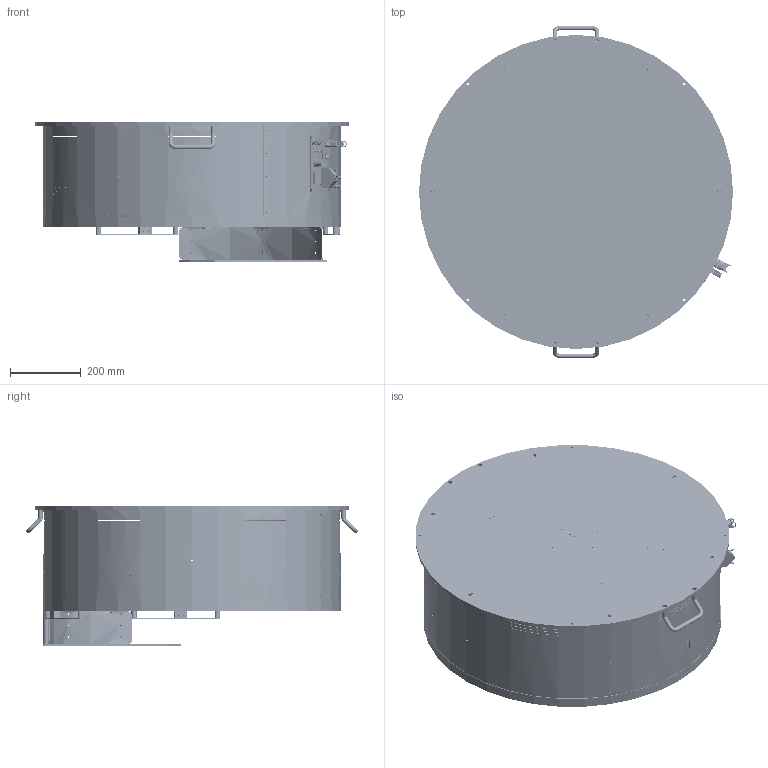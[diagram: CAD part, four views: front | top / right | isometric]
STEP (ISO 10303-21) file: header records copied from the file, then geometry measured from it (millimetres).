
FILE_DESCRIPTION (( 'STEP AP214' ), '1' );
FILE_NAME ('GM001085_FB800C V2.2 Extended backlight area.STEP', '2025-09-23T07:30:38', ( '' ), ( '' ), 'SwSTEP 2.0', 'SolidWorks 2023', '' );
FILE_SCHEMA (( 'AUTOMOTIVE_DESIGN' ));
Length unit declared in the file: millimetre
Products named in the file (82): PD001119; CM000008_001; PD001124; Copia di Guaina^CE000463; PD005085_003; CE000420; Copia di Led RDY_FLT^CE000326; CE000030; PD005625; CM000015_002; Copia di 39-01-2025^CE000327; Copia di CE000327^CE000327; CE000005; Copia di Guaina^CE000461; CM000008_004; PD001101; Copia di 39-01-2045^CE000326; CM000015_001; PD005096; Copia di 39-01-2025^CE000463; PD003362; CM000099; Copia di Cavo line^CE000322; Copia di connector_a-ds_25_pp-f^CE000463; PD005626; PD005085; PD006081; CM000686_001; PD006488; Copia di CE000325^CE000461; CM000008_002; CM000920; Copia di 3^CE000322; PD005112; PD006084; CM000015; PD003221; CE000039; CM000686; CE000276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
Assembly tree (105 placements, depth 3):
  CM000920
  GM001085_FB800C V2.2 Extended backlight area
    CE000327
      Copia di CE000327^CE000327
      Copia di 39-01-2025^CE000327
    CE000326
      Copia di Led RDY_FLT^CE000326
      Copia di 39-01-2045^CE000326
    CE000039
    CE000321
    CE000322
      Copia di 1^CE000322
      Copia di 2 - Copia (2)^CE000322
      Copia di 2 - Copia^CE000322  x4
      Copia di 3^CE000322
      Copia di Cavo line^CE000322
    CE000461
      Copia di CE000325^CE000461
      Copia di 43025-0600^CE000461
      Copia di Guaina^CE000461
    CE000463
      Copia di connector_a-ds_25_pp-f^CE000463
      Copia di Connettore te 2 poli - Copia^CE000463
      Copia di 39-01-2025^CE000463
      Copia di 43025-1600^CE000463
      Copia di Guaina^CE000463
    CM000015  x2
      CM000015_001
      CM000015_002
    CM000424
    CM000099
    PD001086
    CM000001  x2
    PD005096
    PD006488  x5
    PD002027
    PD005112
    PD001356
    PD006083
    PD006082
    PD003221  x2
    PD005625  x4
    PD005626  x2
    PD005085
      PD005085_001
      PD005085_003
      PD005085_002
    CM000374  x2
    PD005103
    PD006081
    PD006074  x3
    PD006084
    PD001087
    PD001101
    PD000043  x4
    PD001123  x2
    PD001119  x2
    PD001124
    PD001122
    PD004009
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Bounding box: 890 x 940.65 x 394.5 mm (x, y, z)
Volume: 14810160.2 mm3; surface area: 5419081.8 mm2
Topology: 126 solids, 145 shells, 14670 faces, 39461 edges, 25468 vertices
Faces by surface type: plane 6775, cylinder 4317, bspline 2247, cone 974, torus 296, sphere 61
Entity records: 672800 total; most frequent: CARTESIAN_POINT 341957, ORIENTED_EDGE 73784, DIRECTION 59949, EDGE_CURVE 37094, VERTEX_POINT 24136, AXIS2_PLACEMENT_3D 21526, LINE 16897, VECTOR 16897
